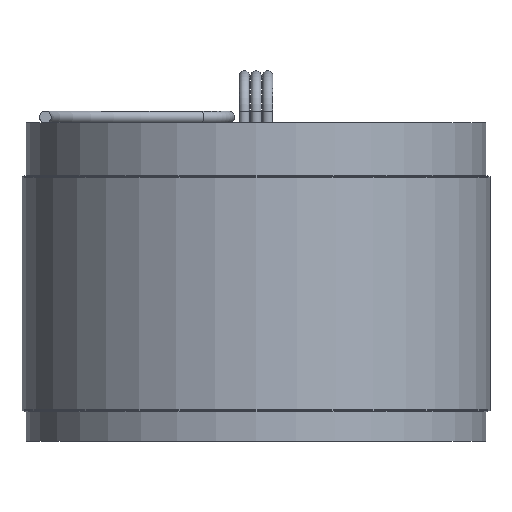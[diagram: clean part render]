
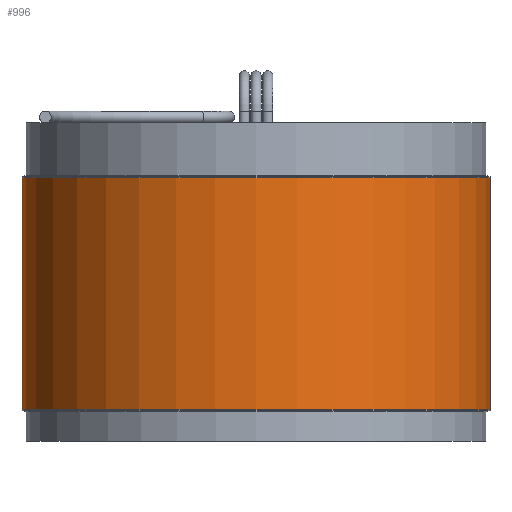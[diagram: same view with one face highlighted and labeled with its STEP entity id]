
A CAD part, front view. The second image highlights one B-rep face of the part: STEP entity #996.
In plain terms, the highlighted cylindrical face has radius 50.8 mm (diameter 101.6 mm), a full revolution.
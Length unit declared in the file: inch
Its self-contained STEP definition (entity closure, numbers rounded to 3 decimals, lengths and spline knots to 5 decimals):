
#68 = AXIS2_PLACEMENT_3D ( 'NONE', #1260, #904, #791 ) ;
#69 = FACE_OUTER_BOUND ( 'NONE', #331, .T. ) ;
#242 = CIRCLE ( 'NONE', #974, 2. ) ;
#287 = VERTEX_POINT ( 'NONE', #548 ) ;
#296 = EDGE_CURVE ( 'NONE', #348, #348, #957, .T. ) ;
#313 = ORIENTED_EDGE ( 'NONE', *, *, #731, .T. ) ;
#331 = EDGE_LOOP ( 'NONE', ( #695 ) ) ;
#348 = VERTEX_POINT ( 'NONE', #657 ) ;
#398 = DIRECTION ( 'NONE',  ( 0., 0., 1. ) ) ;
#420 = AXIS2_PLACEMENT_3D ( 'NONE', #905, #1026, #563 ) ;
#548 = CARTESIAN_POINT ( 'NONE',  ( 2., 0., -0.99213 ) ) ;
#563 = DIRECTION ( 'NONE',  ( 1., 0., 0. ) ) ;
#657 = CARTESIAN_POINT ( 'NONE',  ( 2., 0., 0.99213 ) ) ;
#695 = ORIENTED_EDGE ( 'NONE', *, *, #296, .F. ) ;
#702 = DIRECTION ( 'NONE',  ( 1., 0., 0. ) ) ;
#731 = EDGE_CURVE ( 'NONE', #287, #287, #242, .T. ) ;
#791 = DIRECTION ( 'NONE',  ( 1., 0., 0. ) ) ;
#831 = CARTESIAN_POINT ( 'NONE',  ( 0., 0., -0.99213 ) ) ;
#864 = FACE_OUTER_BOUND ( 'NONE', #1331, .T. ) ;
#904 = DIRECTION ( 'NONE',  ( 0., 0., 1. ) ) ;
#905 = CARTESIAN_POINT ( 'NONE',  ( 0., 0., -1.01 ) ) ;
#957 = CIRCLE ( 'NONE', #68, 2. ) ;
#974 = AXIS2_PLACEMENT_3D ( 'NONE', #831, #398, #702 ) ;
#996 = ADVANCED_FACE ( 'NONE', ( #69, #864 ), #1287, .T. ) ;
#1026 = DIRECTION ( 'NONE',  ( 0., 0., 1. ) ) ;
#1260 = CARTESIAN_POINT ( 'NONE',  ( 0., 0., 0.99213 ) ) ;
#1287 = CYLINDRICAL_SURFACE ( 'NONE', #420, 2. ) ;
#1331 = EDGE_LOOP ( 'NONE', ( #313 ) ) ;
